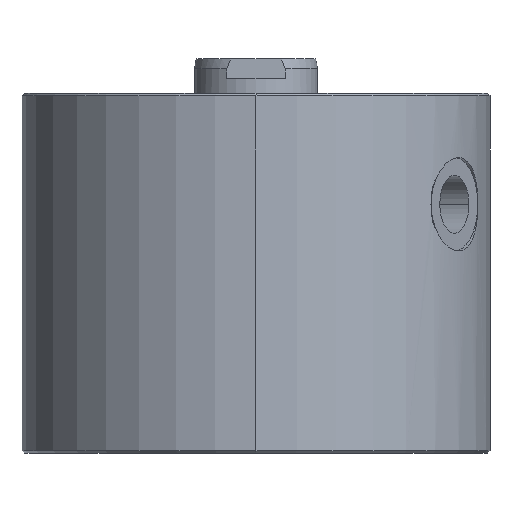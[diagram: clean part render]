
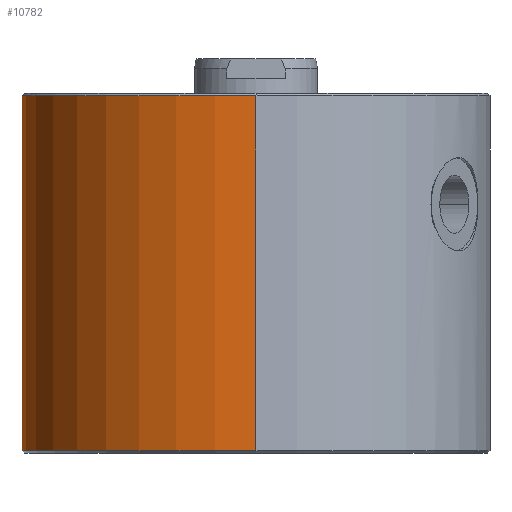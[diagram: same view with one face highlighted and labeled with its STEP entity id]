
A CAD part, left-side view. The second image highlights one B-rep face of the part: STEP entity #10782.
In plain terms, the highlighted cylindrical face has radius 47.5 mm (diameter 95 mm), a partial arc.
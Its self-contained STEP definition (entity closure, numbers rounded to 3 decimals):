
#449 = CARTESIAN_POINT ( 'NONE',  ( -47.5, 0., 73. ) ) ;
#935 = VECTOR ( 'NONE', #9835, 1000. ) ;
#1220 = DIRECTION ( 'NONE',  ( 1., 0., 0. ) ) ;
#1768 = CARTESIAN_POINT ( 'NONE',  ( 47.5, 0., 0.5 ) ) ;
#1779 = CIRCLE ( 'NONE', #2049, 47.5 ) ;
#2049 = AXIS2_PLACEMENT_3D ( 'NONE', #10708, #2673, #12045 ) ;
#2673 = DIRECTION ( 'NONE',  ( 0., 0., 1. ) ) ;
#3517 = EDGE_CURVE ( 'NONE', #15575, #12763, #13581, .T. ) ;
#4325 = DIRECTION ( 'NONE',  ( 0., 0., -1. ) ) ;
#5293 = ORIENTED_EDGE ( 'NONE', *, *, #7021, .F. ) ;
#5689 = DIRECTION ( 'NONE',  ( -1., 0., 0. ) ) ;
#6112 = DIRECTION ( 'NONE',  ( 0., 0., -1. ) ) ;
#6430 = CARTESIAN_POINT ( 'NONE',  ( 47.5, 0., 73. ) ) ;
#6892 = EDGE_CURVE ( 'NONE', #12763, #11276, #1779, .T. ) ;
#7021 = EDGE_CURVE ( 'NONE', #8973, #11276, #7662, .T. ) ;
#7662 = LINE ( 'NONE', #449, #935 ) ;
#8419 = AXIS2_PLACEMENT_3D ( 'NONE', #13690, #4325, #5689 ) ;
#8973 = VERTEX_POINT ( 'NONE', #17391 ) ;
#9224 = CARTESIAN_POINT ( 'NONE',  ( 47.5, 0., 72.5 ) ) ;
#9258 = DIRECTION ( 'NONE',  ( 0., 0., -1. ) ) ;
#9835 = DIRECTION ( 'NONE',  ( 0., 0., -1. ) ) ;
#10239 = CYLINDRICAL_SURFACE ( 'NONE', #8419, 47.5 ) ;
#10708 = CARTESIAN_POINT ( 'NONE',  ( 0., 0., 0.5 ) ) ;
#10782 = ADVANCED_FACE ( 'Face1', ( #14215 ), #10239, .T. ) ;
#11276 = VERTEX_POINT ( 'NONE', #12753 ) ;
#11728 = ORIENTED_EDGE ( 'NONE', *, *, #6892, .T. ) ;
#12045 = DIRECTION ( 'NONE',  ( 1., 0., 0. ) ) ;
#12331 = EDGE_LOOP ( 'NONE', ( #13052, #13598, #11728, #5293 ) ) ;
#12753 = CARTESIAN_POINT ( 'NONE',  ( -47.5, 0., 0.5 ) ) ;
#12763 = VERTEX_POINT ( 'NONE', #1768 ) ;
#13052 = ORIENTED_EDGE ( 'NONE', *, *, #13728, .T. ) ;
#13581 = LINE ( 'NONE', #6430, #17151 ) ;
#13598 = ORIENTED_EDGE ( 'NONE', *, *, #3517, .T. ) ;
#13690 = CARTESIAN_POINT ( 'NONE',  ( 0., 0., 73. ) ) ;
#13728 = EDGE_CURVE ( 'NONE', #8973, #15575, #14745, .T. ) ;
#14215 = FACE_OUTER_BOUND ( 'NONE', #12331, .T. ) ;
#14745 = CIRCLE ( 'NONE', #16959, 47.5 ) ;
#15575 = VERTEX_POINT ( 'NONE', #9224 ) ;
#16959 = AXIS2_PLACEMENT_3D ( 'NONE', #17283, #9258, #1220 ) ;
#17151 = VECTOR ( 'NONE', #6112, 1000. ) ;
#17283 = CARTESIAN_POINT ( 'NONE',  ( 0., 0., 72.5 ) ) ;
#17391 = CARTESIAN_POINT ( 'NONE',  ( -47.5, 0., 72.5 ) ) ;
